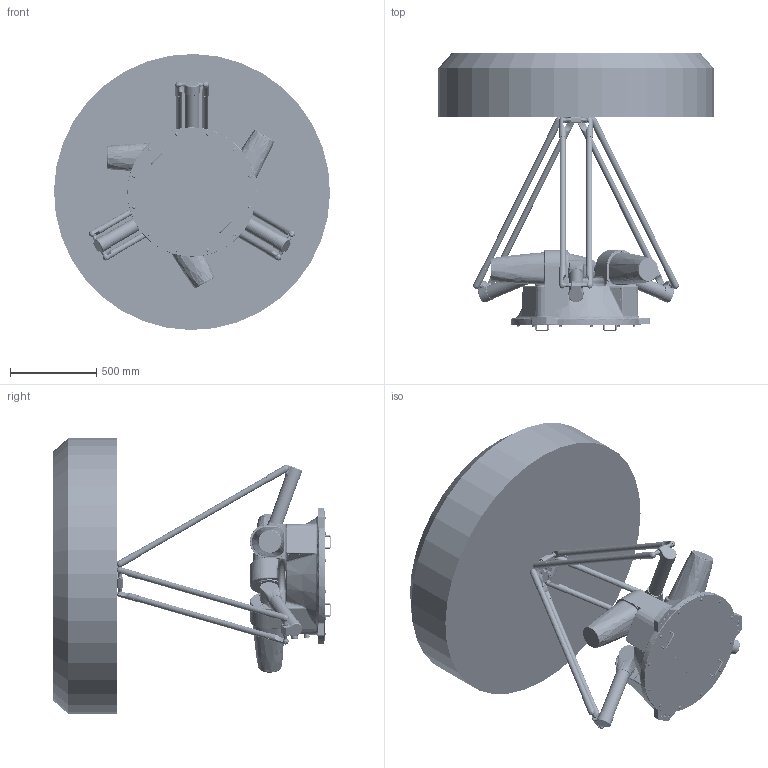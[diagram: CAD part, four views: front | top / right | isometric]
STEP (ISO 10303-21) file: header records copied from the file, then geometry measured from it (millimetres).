
FILE_DESCRIPTION (( 'STEP AP214' ), '1' );
FILE_NAME ('AP25X-1600-1543-T0-V1.0.0.STEP', '2024-05-16T08:23:52', ( '' ), ( '' ), 'SwSTEP 2.0', 'SolidWorks 2017', '' );
FILE_SCHEMA (( 'AUTOMOTIVE_DESIGN' ));
Length unit declared in the file: millimetre
Products named in the file (6): AP25X-1600-1543-T5-V1.0.0; AP25X-1600-1543-T0-V1.0.0; AP25X-1600-1543-T4-V1.0.0; AP25X-1600-1543-T2-V1.0.0; AP25X-1600-1543-T1-V1.0.0; AP25X-1600-1543-T3-V1.0.0
Assembly tree (12 placements, depth 2):
  AP25X-1600-1543-T0-V1.0.0
    AP25X-1600-1543-T1-V1.0.0
    AP25X-1600-1543-T2-V1.0.0  x3
    AP25X-1600-1543-T3-V1.0.0  x6
    AP25X-1600-1543-T4-V1.0.0
    AP25X-1600-1543-T5-V1.0.0
Bounding box: 1599.81 x 1613 x 1599.81 mm (x, y, z)
Volume: 123807028.8 mm3; surface area: 10196377.8 mm2
Topology: 23 solids, 312 shells, 6656 faces, 16558 edges, 10158 vertices
Faces by surface type: cylinder 1810, plane 1782, cone 1582, bspline 1279, torus 129, sphere 74
Entity records: 336341 total; most frequent: CARTESIAN_POINT 177911, ORIENTED_EDGE 26644, DIRECTION 21356, EDGE_CURVE 13322, VERTEX_POINT 8393, AXIS2_PLACEMENT_3D 8132, EDGE_LOOP 5905, FACE_OUTER_BOUND 5468
